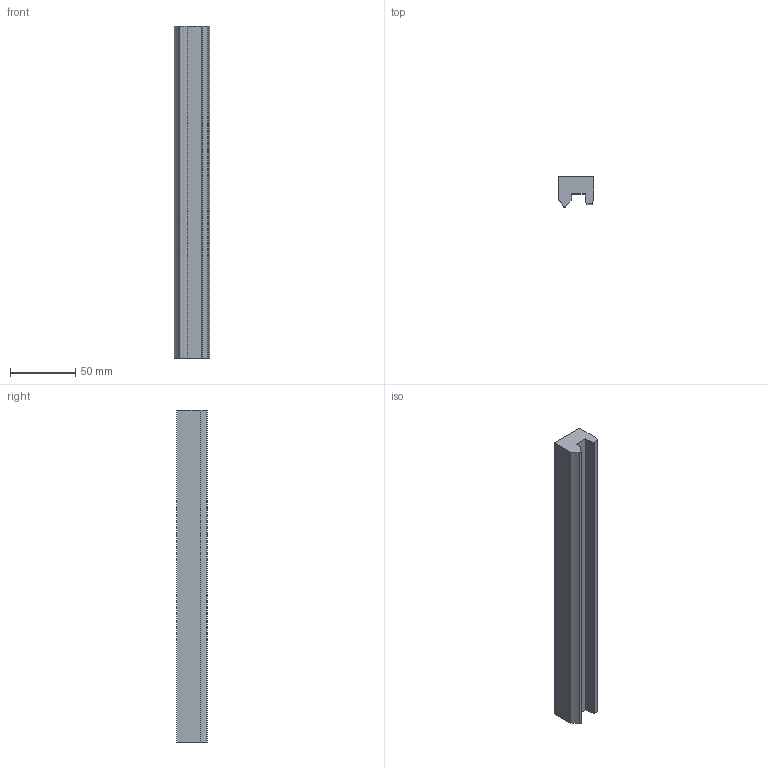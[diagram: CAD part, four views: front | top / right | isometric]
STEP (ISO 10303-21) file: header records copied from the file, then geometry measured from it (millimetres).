
FILE_DESCRIPTION(/* description */ (''),/* implementation_level */ '2;1');
FILE_NAME(/* name */ 'g3-wing.step',/* time_stamp */ '2026-08-13T21:53:22-07:00',/* author */ (''),/* organization */ (''),/* preprocessor_version */ 'ST-DEVELOPER v20.1',/* originating_system */ 'Autodesk Translation Framework v15.8.0.0',/* authorisation */ '');
FILE_SCHEMA (('AUTOMOTIVE_DESIGN { 1 0 10303 214 3 1 1 }'));
Length unit declared in the file: inch
Products named in the file (2): HK_Mandrel; g3 wings
Assembly tree (1 placements, depth 2):
  HK_Mandrel
    g3 wings
Bounding box: 27.3 x 23.4 x 254 mm (x, y, z)
Volume: 122813.4 mm3; surface area: 28673.3 mm2
Topology: 1 solids, 1 shells, 17 faces, 45 edges, 30 vertices
Faces by surface type: plane 11, cylinder 6
Entity records: 586 total; most frequent: DIRECTION 97, CARTESIAN_POINT 95, ORIENTED_EDGE 90, EDGE_CURVE 45, LINE 33, VECTOR 33, AXIS2_PLACEMENT_3D 32, VERTEX_POINT 30
